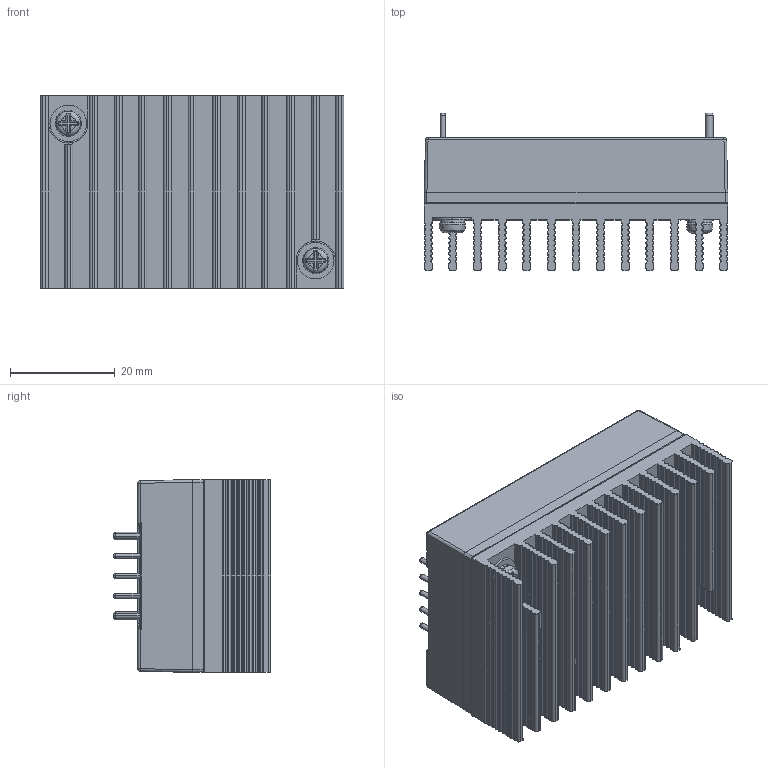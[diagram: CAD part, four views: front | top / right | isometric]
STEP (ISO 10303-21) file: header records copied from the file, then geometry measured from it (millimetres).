
FILE_DESCRIPTION((''),'2;1');
FILE_NAME('PLAN-2-100W_ASM_ASM_ASM_ASM','2021-11-17T',('eng605'),(''),'PRO/ENGINEER BY PARAMETRIC TECHNOLOGY CORPORATION, 2014000','PRO/ENGINEER BY PARAMETRIC TECHNOLOGY CORPORATION, 2014000','');
FILE_SCHEMA(('AUTOMOTIVE_DESIGN { 1 0 10303 214 1 1 1 1 }'));
Products named in the file (1): PLAN-2-100W_ASM_ASM_ASM_ASM
Bounding box: 57.9 x 30.05 x 36.8 mm (x, y, z)
Volume: 19856.2 mm3; surface area: 26208.6 mm2
Topology: 2 solids, 7 shells, 2472 faces, 7039 edges, 4675 vertices
Faces by surface type: cylinder 1197, plane 983, cone 122, bspline 97, torus 40, sphere 33
Entity records: 113197 total; most frequent: CARTESIAN_POINT 30438, ORIENTED_EDGE 14012, DIRECTION 13809, EDGE_CURVE 7006, AXIS2_PLACEMENT_3D 5067, VERTEX_POINT 4675, VECTOR 3675, LINE 3675
